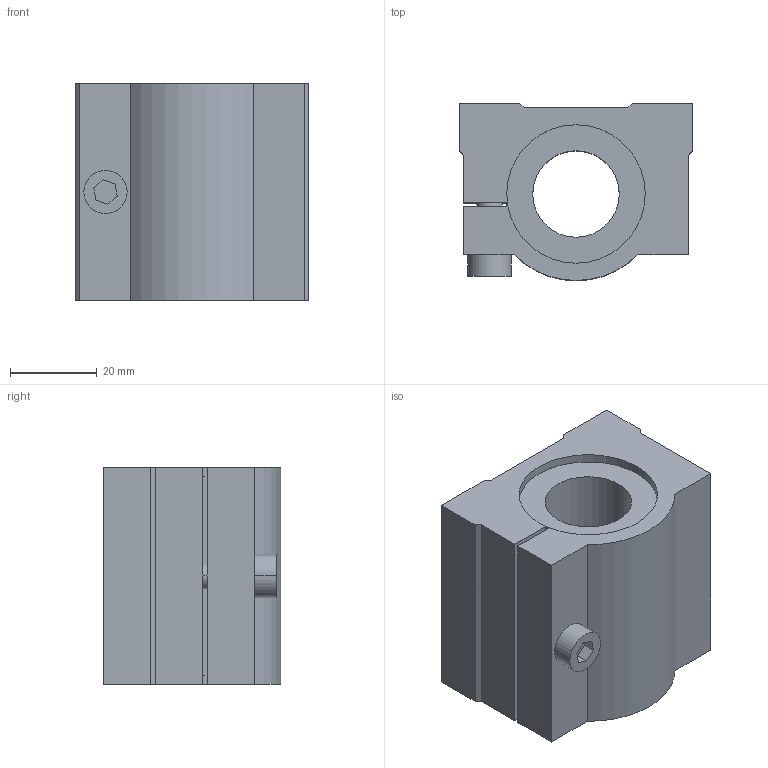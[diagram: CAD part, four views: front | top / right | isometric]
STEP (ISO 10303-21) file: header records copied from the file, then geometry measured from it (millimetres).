
FILE_DESCRIPTION((''),'2;1');
FILE_NAME('C:\Documents and Settings\ｿﾀﾀ蠑ｷ1\ｹﾙﾅﾁ ﾈｭｸ饅\ｺﾎﾇｰﾆﾄﾀﾏ\ﾁｦﾇｰ\SCJ__UU\SCJ20UU.stp','2005-06-22T17:46:50',('ｿﾀﾀ蠑ｷ1'),(''),'Autodesk Inventor 9','Autodesk Inventor 9','');
FILE_SCHEMA(('AUTOMOTIVE_DESIGN { 1 0 10303 214 1 1 1 1 }'));
Length unit declared in the file: millimetre
Products named in the file (1): SCJ__UU
Bounding box: 54 x 41 x 50 mm (x, y, z)
Volume: 78331.3 mm3; surface area: 17365.4 mm2
Topology: 1 solids, 1 shells, 56 faces, 142 edges, 88 vertices
Faces by surface type: plane 29, bspline 16, cylinder 11
Entity records: 1863 total; most frequent: CARTESIAN_POINT 551, ORIENTED_EDGE 268, DIRECTION 254, EDGE_CURVE 134, VECTOR 96, LINE 96, VERTEX_POINT 88, AXIS2_PLACEMENT_3D 79
